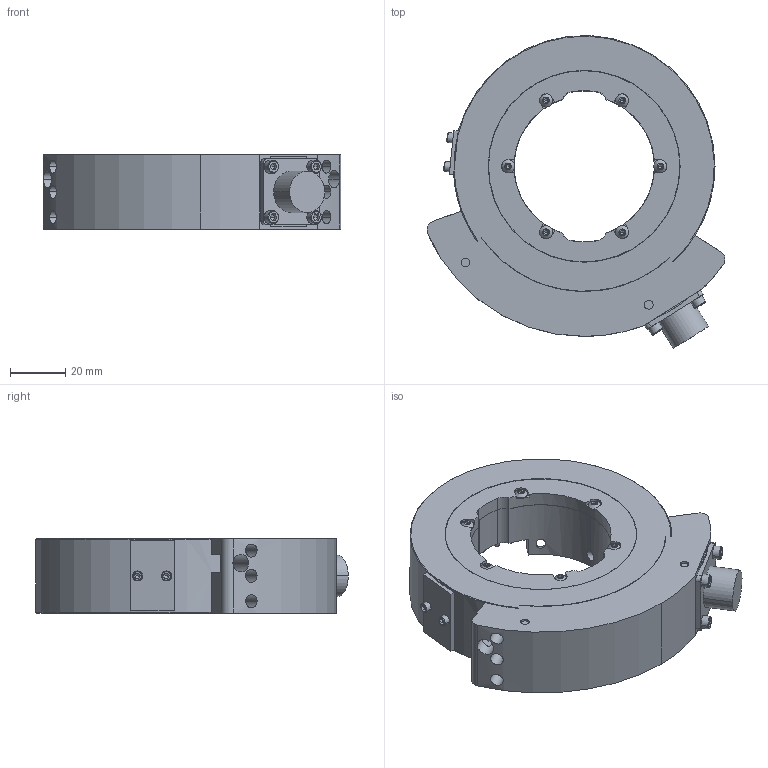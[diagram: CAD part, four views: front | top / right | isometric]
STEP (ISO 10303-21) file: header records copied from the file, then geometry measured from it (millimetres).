
FILE_DESCRIPTION (( 'STEP AP203' ), '1' );
FILE_NAME ('C137090-B6-CM.STEP', '2017-06-23T13:00:02', ( '' ), ( '' ), 'SwSTEP 2.0', 'SolidWorks 2014', '' );
FILE_SCHEMA (( 'CONFIG_CONTROL_DESIGN' ));
Length unit declared in the file: inch
Products named in the file (1): C137090-B6-CM
Bounding box: 107.86 x 113.2 x 27 mm (x, y, z)
Volume: 168651.5 mm3; surface area: 44400.1 mm2
Topology: 1 solids, 29 shells, 981 faces, 2347 edges, 1496 vertices
Faces by surface type: plane 424, cylinder 397, cone 104, bspline 56
Entity records: 34915 total; most frequent: CARTESIAN_POINT 12369, ORIENTED_EDGE 4622, DIRECTION 4607, EDGE_CURVE 2311, AXIS2_PLACEMENT_3D 1778, VERTEX_POINT 1496, EDGE_LOOP 1159, LINE 1051
